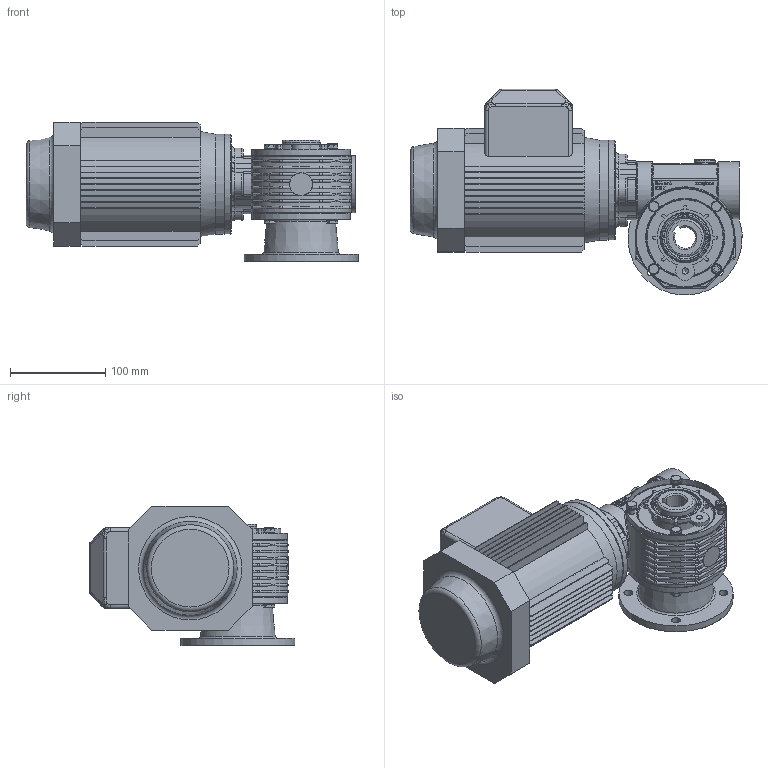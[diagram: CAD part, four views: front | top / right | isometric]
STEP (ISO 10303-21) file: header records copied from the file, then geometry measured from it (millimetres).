
FILE_DESCRIPTION((''),'2;1');
FILE_NAME('Y:\Archivi Inventor\Prog_01\GRAND_10\Figurini\mrv10 VECCHIO\pam71 b14\MRV10 PAM71B14 F2.stp','2014-01-15T09:07:37',('tech3'),(''),'Autodesk Inventor 2013','Autodesk Inventor 2013','');
FILE_SCHEMA(('AUTOMOTIVE_DESIGN { 1 0 10303 214 1 1 1 1 }'));
Length unit declared in the file: millimetre
Products named in the file (17): mrv10; V10_PRIMARIO; carcassa mrv10 fig; corona MRV10-f22 fig; RCA_40x7; 40_52_8; Tappo 3_8 GAS_esagn_incsst; Guarnizione 3_8 GAS; DIN EN ISO 4762 M6 x 20; 0101029; coperchio laterale mrv10 fig; DIN EN 24017 M6 x 16; flangia riduttore Mrv10 fig; 0101028; 0101006; DIN EN ISO 4762 M6 x 16; motori B14 71
Assembly tree (28 placements, depth 3):
  mrv10
    V10_PRIMARIO
      carcassa mrv10 fig
      corona MRV10-f22 fig
      RCA_40x7
      40_52_8  x2
      Tappo 3_8 GAS_esagn_incsst
      Guarnizione 3_8 GAS
      DIN EN ISO 4762 M6 x 20
      0101029  x2
      coperchio laterale mrv10 fig
      DIN EN 24017 M6 x 16  x8
      flangia riduttore Mrv10 fig
      0101028
    0101006
    DIN EN ISO 4762 M6 x 16  x4
    motori B14 71
Bounding box: 348.72 x 215.77 x 146.35 mm (x, y, z)
Volume: 3400781.7 mm3; surface area: 450954 mm2
Topology: 27 solids, 31 shells, 1905 faces, 4922 edges, 3117 vertices
Faces by surface type: plane 1038, cylinder 398, bspline 210, cone 129, torus 114, sphere 16
Full cylindrical faces by diameter (mm): 2 x2, 4.917 x16, 6 x17, 6.5 x21, 7 x4, 8 x1, 8.88 x8, 9.25 x4, 10 x5, 11 x4, 14 x1, 14.95 x1, 16.3 x1, 16.5 x1, 22 x2, 24 x1, 35 x1, 35.2 x1, 39.4 x2, 40 x11, 42.5 x1, 42.881 x2, 47.232 x2, 52 x4, 60 x3, 70 x2, 80 x2, 81 x1, 82 x6, 103.5 x2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
Entity records: 57282 total; most frequent: CARTESIAN_POINT 16581, ORIENTED_EDGE 8474, DIRECTION 7726, EDGE_CURVE 4237, VERTEX_POINT 2799, AXIS2_PLACEMENT_3D 2647, VECTOR 2432, LINE 2432
